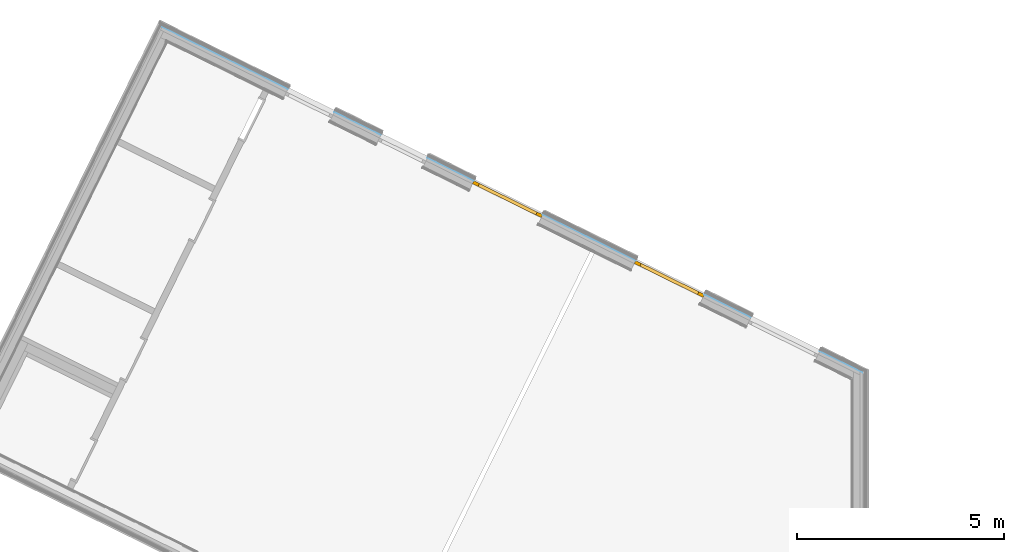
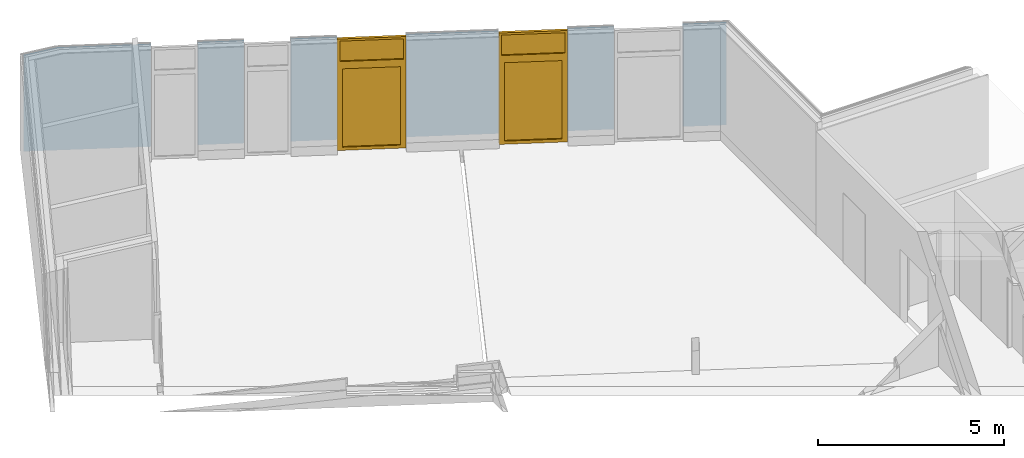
# One storey, part 20 of 23: 2 doors, 5 openings, plus 1 element that does not belong to this part.
"""IFC4 building model written with IfcOpenShell, lengths in metres."""

from ifc_helpers import new_model, entity, si_unit, converted_unit, derived_unit, frame, origin, origin_with_axes, place, context, subcontext, project, spatial, polyline, outline, extrude, clip, bounded_halfspace, closed_shell, open_shell, surface_model, source, transform, mapped, material, type_object, element, fill, save


model = new_model("IFC4")

# Units and contexts
model_context = context("Model", 3, precision=1e-05, world=origin())
body_context = subcontext(model_context, "Body", "Model", "MODEL_VIEW")
ifc_project = project(units=[si_unit("LENGTHUNIT", "METRE"), si_unit("AREAUNIT", "SQUARE_METRE"), si_unit("VOLUMEUNIT", "CUBIC_METRE"), si_unit("MASSUNIT", "GRAM", prefix="KILO"), converted_unit("PLANEANGLEUNIT", "DEGREE", entity("IfcPlaneAngleMeasure", 0.0174532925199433), si_unit("PLANEANGLEUNIT", "RADIAN"), dimensions=[0, 0, 0, 0, 0, 0, 0]), derived_unit("THERMALTRANSMITTANCEUNIT", [(si_unit("POWERUNIT", "WATT"), 1), (si_unit("THERMODYNAMICTEMPERATUREUNIT", "KELVIN"), -1), (si_unit("LENGTHUNIT", "METRE"), -2)]), derived_unit("VOLUMETRICFLOWRATEUNIT", [(si_unit("LENGTHUNIT", "METRE"), 3), (converted_unit("TIMEUNIT", "hour", entity("IfcTimeMeasure", 3600.0), si_unit("TIMEUNIT", "SECOND"), dimensions=[0, 0, 1, 0, 0, 0, 0]), -1), (si_unit("LENGTHUNIT", "METRE"), -1)])], contexts=[model_context])

# Site, building, storey
site_placement = place(None, origin())
site = spatial("IfcSite", under=ifc_project, at=site_placement, Name="Psychiatrie Neubau Wunstorf", CompositionType="ELEMENT")
building_placement = place(site_placement, origin())
building = spatial("IfcBuilding", under=site, at=building_placement, Name="Neubau H1 Sozialzentrum", CompositionType="ELEMENT")
storey_placement = place(building_placement, frame((0.0, 0.0, 0.7)))
storey = spatial("IfcBuildingStorey", under=building, at=storey_placement, Name="H1 Ebene 0", CompositionType="ELEMENT", Elevation=0.7)

# Wall, openings, doors
ifc_material_1 = material(Name="WA-LB")
wall_placement = place(storey_placement, frame((-21.8416426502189, 41.7479080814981, 0.3), z_axis=(0.0, 0.0, 1.0), x_axis=(0.896905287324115, -0.442222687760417, 0.0)))
wall = element("IfcWall", 1, at=wall_placement, inside=storey, material=ifc_material_1, context=body_context, shape_type="Clipping", body=[
    clip(extrude(outline(polyline([(-3.69601551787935, 7.49616867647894), (15.2035467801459, 7.49616867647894), (15.1857968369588, 7.53216867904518), (-3.69601551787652, 7.53216867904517), (-3.69601551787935, 7.49616867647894)])), frame((3.69601551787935, -7.49616867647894, 0.0), z_axis=(0.0, 0.0, 1.0), x_axis=(1.0, 0.0, 0.0)), (0.0, 0.0, 1.0), 3.35), bounded_halfspace(frame((0.458789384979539, 0.01800000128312, 3.24447844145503), z_axis=(0.222899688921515, 0.105378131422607, -0.969129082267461), x_axis=(-0.427404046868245, 0.904060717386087, 0.0)), True, origin_with_axes(), polyline([(0.926088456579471, 0.0), (0.909069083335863, 0.0360000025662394), (0.0, 0.0360000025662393), (0.0, 0.0), (0.926088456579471, 0.0)]))),
])
opening_1_placement = place(wall_placement, frame((17.725869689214, 0.0360000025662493, -0.5), z_axis=(0.0, -1.0, 0.0), x_axis=(0.0, 0.0, 1.0)))
element("IfcOpeningElement", 2, at=opening_1_placement, cuts=wall, Name="Fensteröffnung", ObjectType="Opening", context=body_context, shape_type="SweptSolid", body=[
    extrude(outline(polyline([(3.85, 1.85), (3.85, 0.0), (0.0, 0.0), (0.0, 1.85), (3.85, 1.85)])), origin_with_axes(), (0.0, 0.0, 1.0), 0.0360000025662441),
])
opening_2_placement = place(wall_placement, frame((7.17586968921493, 0.0360000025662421, -0.5), z_axis=(0.0, -1.0, 0.0), x_axis=(0.0, 0.0, 1.0)))
element("IfcOpeningElement", 3, at=opening_2_placement, cuts=wall, Name="Fensteröffnung", ObjectType="Opening", context=body_context, shape_type="SweptSolid", body=[
    extrude(outline(polyline([(3.85, 1.25000000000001), (3.85, 0.0), (0.0, 0.0), (0.0, 1.25000000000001), (3.85, 1.25000000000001)])), origin_with_axes(), (0.0, 0.0, 1.0), 0.0360000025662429),
])
opening_3_placement = place(wall_placement, frame((4.67586968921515, 0.0360000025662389, -0.5), z_axis=(-2.5263739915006e-14, -1.0, 0.0), x_axis=(0.0, 0.0, 1.0)))
element("IfcOpeningElement", 4, at=opening_3_placement, cuts=wall, Name="Fensteröffnung", ObjectType="Opening", context=body_context, shape_type="SweptSolid", body=[
    extrude(outline(polyline([(3.85, 1.25), (3.85, 0.0), (0.0, 0.0), (0.0, 1.25), (3.85, 1.25)])), origin_with_axes(), (0.0, 0.0, 1.0), 0.0360000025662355),
])
opening_4_placement = place(wall_placement, frame((12.7758668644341, 0.0, -0.5), z_axis=(0.0, 1.0, 0.0), x_axis=(0.0, 0.0, 1.0)))
opening_4 = element("IfcOpeningElement", 5, at=opening_4_placement, cuts=wall, Name="Türöffnung", ObjectType="Opening", context=body_context, shape_type="SweptSolid", body=[
    extrude(outline(polyline([(3.85, 1.85000000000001), (3.85, 0.0), (0.0, 0.0), (0.0, 1.85000000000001), (3.85, 1.85000000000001)])), origin_with_axes(), (0.0, 0.0, 1.0), 0.0360000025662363),
])
opening_5_placement = place(wall_placement, frame((8.42586686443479, 0.0, -0.5), z_axis=(0.0, 1.0, 0.0), x_axis=(0.0, 0.0, 1.0)))
opening_5 = element("IfcOpeningElement", 6, at=opening_5_placement, cuts=wall, Name="Türöffnung", ObjectType="Opening", context=body_context, shape_type="SweptSolid", body=[
    extrude(outline(polyline([(3.85, 1.85000000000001), (3.85, 0.0), (0.0, 0.0), (0.0, 1.85000000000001), (3.85, 1.85000000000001)])), origin_with_axes(), (0.0, 0.0, 1.0), 0.0360000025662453),
])
ifc_material_2 = material(Name="TA-1F-AG-D")
door_type_1 = type_object("IfcDoorType", Name="SMT", OperationType="SINGLE_SWING_RIGHT", ParameterTakesPrecedence=False, PredefinedType="DOOR")
shared_shape_1 = source(origin_with_axes(), body_context, "Body", "SurfaceModel", [
    surface_model("IfcShellBasedSurfaceModel", [(1.85000000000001, 0.0800013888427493, 3.85), (1.78000000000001, 0.0800013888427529, 3.85), (1.78000000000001, 0.0800013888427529, 0.2), (1.85000000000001, 0.0800013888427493, 0.2), (1.85000000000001, 1.38884275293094e-06, 0.2), (1.78000000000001, 1.38884275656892e-06, 0.2), (1.78000000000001, 1.38884275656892e-06, 3.85), (1.85000000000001, 1.38884275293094e-06, 3.85)], [closed_shell([[[0, 1, 2, 3]], [[4, 5, 6, 7]], [[3, 4, 7, 0]], [[2, 5, 4, 3]], [[1, 6, 5, 2]], [[0, 7, 6, 1]]], orient=[[False], [False], [False], [False], [False], [False]])]),
    surface_model("IfcShellBasedSurfaceModel", [(0.0700000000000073, 0.0800013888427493, 3.85), (0.0, 0.0800013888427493, 3.85), (0.0, 0.0800013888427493, 0.2), (0.0700000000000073, 0.0800013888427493, 0.2), (0.0700000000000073, 1.38884275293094e-06, 0.2), (0.0, 1.38884275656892e-06, 0.2), (0.0, 1.38884275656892e-06, 3.85), (0.0700000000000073, 1.38884275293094e-06, 3.85)], [closed_shell([[[0, 1, 2, 3]], [[4, 5, 6, 7]], [[3, 4, 7, 0]], [[2, 5, 4, 3]], [[1, 6, 5, 2]], [[0, 7, 6, 1]]], orient=[[False], [False], [False], [False], [False], [False]])]),
    surface_model("IfcShellBasedSurfaceModel", [(1.78000000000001, 0.0800013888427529, 3.85), (0.0700000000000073, 0.0800013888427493, 3.85), (0.0700000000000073, 0.0800013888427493, 3.78), (1.78000000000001, 0.0800013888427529, 3.78), (1.78000000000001, 1.38884275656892e-06, 3.78), (0.0700000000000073, 1.38884275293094e-06, 3.78), (0.0700000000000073, 1.38884275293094e-06, 3.85), (1.78000000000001, 1.38884275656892e-06, 3.85)], [closed_shell([[[0, 1, 2, 3]], [[4, 5, 6, 7]], [[3, 4, 7, 0]], [[2, 5, 4, 3]], [[1, 6, 5, 2]], [[0, 7, 6, 1]]], orient=[[False], [False], [False], [False], [False], [False]])]),
    surface_model("IfcShellBasedSurfaceModel", [(1.78000000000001, 0.0800013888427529, 3.11), (0.0700000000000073, 0.0800013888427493, 3.11), (0.0700000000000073, 0.0800013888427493, 2.95), (1.78000000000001, 0.0800013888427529, 2.95), (1.78000000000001, 1.38884275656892e-06, 2.95), (0.0700000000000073, 1.38884275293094e-06, 2.95), (0.0700000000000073, 1.38884275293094e-06, 3.11), (1.78000000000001, 1.38884275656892e-06, 3.11)], [closed_shell([[[0, 1, 2, 3]], [[4, 5, 6, 7]], [[3, 4, 7, 0]], [[2, 5, 4, 3]], [[1, 6, 5, 2]], [[0, 7, 6, 1]]], orient=[[False], [False], [False], [False], [False], [False]])]),
    surface_model("IfcShellBasedSurfaceModel", [(1.80000000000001, 0.0810013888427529, 2.97), (1.70000000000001, 0.0810013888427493, 2.97), (1.70000000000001, 0.0810013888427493, 0.2), (1.80000000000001, 0.0810013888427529, 0.2), (1.80000000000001, 0.00100138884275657, 0.2), (1.70000000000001, 0.00100138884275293, 0.2), (1.70000000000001, 0.00100138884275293, 2.97), (1.80000000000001, 0.00100138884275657, 2.97)], [closed_shell([[[0, 1, 2, 3]], [[4, 5, 6, 7]], [[3, 4, 7, 0]], [[2, 5, 4, 3]], [[1, 6, 5, 2]], [[0, 7, 6, 1]]], orient=[[False], [False], [False], [False], [False], [False]])]),
    surface_model("IfcShellBasedSurfaceModel", [(0.150000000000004, 0.0810013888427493, 2.97), (0.0500000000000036, 0.0810013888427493, 2.97), (0.0500000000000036, 0.0810013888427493, 0.2), (0.150000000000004, 0.0810013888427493, 0.2), (0.150000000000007, 0.00100138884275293, 0.2), (0.0500000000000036, 0.00100138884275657, 0.2), (0.0500000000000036, 0.00100138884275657, 2.97), (0.150000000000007, 0.00100138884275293, 2.97)], [closed_shell([[[0, 1, 2, 3]], [[4, 5, 6, 7]], [[3, 4, 7, 0]], [[2, 5, 4, 3]], [[1, 6, 5, 2]], [[0, 7, 6, 1]]], orient=[[False], [False], [False], [False], [False], [False]])]),
    surface_model("IfcShellBasedSurfaceModel", [(1.70000000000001, 0.0810013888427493, 0.3), (0.150000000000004, 0.0810013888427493, 0.3), (0.150000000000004, 0.0810013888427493, 0.2), (1.70000000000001, 0.0810013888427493, 0.2), (1.70000000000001, 0.00100138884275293, 0.2), (0.150000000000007, 0.00100138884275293, 0.2), (0.150000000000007, 0.00100138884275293, 0.3), (1.70000000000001, 0.00100138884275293, 0.3)], [closed_shell([[[0, 1, 2, 3]], [[4, 5, 6, 7]], [[3, 4, 7, 0]], [[2, 5, 4, 3]], [[1, 6, 5, 2]], [[0, 7, 6, 1]]], orient=[[False], [False], [False], [False], [False], [False]])]),
    surface_model("IfcShellBasedSurfaceModel", [(1.70000000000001, 0.0810013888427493, 2.97), (0.150000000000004, 0.0810013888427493, 2.97), (0.150000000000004, 0.0810013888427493, 2.87), (1.70000000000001, 0.0810013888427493, 2.87), (1.70000000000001, 0.00100138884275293, 2.87), (0.150000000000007, 0.00100138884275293, 2.87), (0.150000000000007, 0.00100138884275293, 2.97), (1.70000000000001, 0.00100138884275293, 2.97)], [closed_shell([[[0, 1, 2, 3]], [[4, 5, 6, 7]], [[3, 4, 7, 0]], [[2, 5, 4, 3]], [[1, 6, 5, 2]], [[0, 7, 6, 1]]], orient=[[False], [False], [False], [False], [False], [False]])]),
    surface_model("IfcShellBasedSurfaceModel", [(1.78000000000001, 0.0400013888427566, 3.11), (1.78000000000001, 0.0400013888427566, 3.78), (0.0700000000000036, 0.0400013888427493, 3.78), (0.0700000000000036, 0.0400013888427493, 3.11)], [open_shell([[[0, 1, 2, 3]]], orient=[[False]])]),
    surface_model("IfcShellBasedSurfaceModel", [(1.70000000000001, 0.0410013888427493, 0.3), (1.70000000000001, 0.0410013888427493, 2.87), (0.150000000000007, 0.0410013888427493, 2.87), (0.150000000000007, 0.0410013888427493, 0.3)], [open_shell([[[0, 1, 2, 3]]], orient=[[False]])]),
])
door_1_placement = place(opening_4_placement, frame((0.0, 0.0, -0.0800007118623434), z_axis=(1.0, 0.0, 0.0), x_axis=(0.0, 1.0, -4.44089209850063e-16)))
door_1 = element("IfcDoor", 7, at=door_1_placement, inside=storey, type_object=door_type_1, material=ifc_material_2, Name="SMT", OverallHeight=3.85, OverallWidth=1.85, context=body_context, shape_type="MappedRepresentation", body=[
    mapped(shared_shape_1, transform((0.0, 0.0, 0.0), x_axis=(1.0, 0.0, 0.0), y_axis=(0.0, 1.0, 0.0), z_axis=(0.0, 0.0, 1.0), scale=1.0)),
])
fill(opening_4, door_1)
ifc_material_3 = material(Name="TA-1F-AG-D")
door_type_2 = type_object("IfcDoorType", Name="SMT", OperationType="SINGLE_SWING_RIGHT", ParameterTakesPrecedence=False, PredefinedType="DOOR")
shared_shape_2 = source(origin_with_axes(), body_context, "Body", "SurfaceModel", [
    surface_model("IfcShellBasedSurfaceModel", [(1.85000000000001, 0.0800013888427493, 3.85), (1.78000000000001, 0.0800013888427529, 3.85), (1.78000000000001, 0.0800013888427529, 0.2), (1.85000000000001, 0.0800013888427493, 0.2), (1.85000000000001, 1.38884274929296e-06, 0.2), (1.78000000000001, 1.38884275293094e-06, 0.2), (1.78000000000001, 1.38884275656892e-06, 3.85), (1.85000000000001, 1.38884274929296e-06, 3.85)], [closed_shell([[[0, 1, 2, 3]], [[4, 5, 6, 7]], [[3, 4, 7, 0]], [[2, 5, 4, 3]], [[1, 6, 5, 2]], [[0, 7, 6, 1]]], orient=[[False], [False], [False], [False], [False], [False]])]),
    surface_model("IfcShellBasedSurfaceModel", [(0.07, 0.0800013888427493, 3.85), (0.0, 0.0800013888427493, 3.85), (0.0, 0.0800013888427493, 0.2), (0.07, 0.0800013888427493, 0.2), (0.0699999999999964, 1.38884274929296e-06, 0.2), (0.0, 1.38884275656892e-06, 0.2), (0.0, 1.38884275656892e-06, 3.85), (0.0699999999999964, 1.38884274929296e-06, 3.85)], [closed_shell([[[0, 1, 2, 3]], [[4, 5, 6, 7]], [[3, 4, 7, 0]], [[2, 5, 4, 3]], [[1, 6, 5, 2]], [[0, 7, 6, 1]]], orient=[[False], [False], [False], [False], [False], [False]])]),
    surface_model("IfcShellBasedSurfaceModel", [(1.78000000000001, 0.0800013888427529, 3.85), (0.07, 0.0800013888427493, 3.85), (0.07, 0.0800013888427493, 3.78), (1.78000000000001, 0.0800013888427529, 3.78), (1.78000000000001, 1.38884275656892e-06, 3.78), (0.0699999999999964, 1.38884274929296e-06, 3.78), (0.0699999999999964, 1.38884274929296e-06, 3.85), (1.78000000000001, 1.38884275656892e-06, 3.85)], [closed_shell([[[0, 1, 2, 3]], [[4, 5, 6, 7]], [[3, 4, 7, 0]], [[2, 5, 4, 3]], [[1, 6, 5, 2]], [[0, 7, 6, 1]]], orient=[[False], [False], [False], [False], [False], [False]])]),
    surface_model("IfcShellBasedSurfaceModel", [(1.78000000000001, 0.0800013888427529, 3.11), (0.07, 0.0800013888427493, 3.11), (0.07, 0.0800013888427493, 2.95), (1.78000000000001, 0.0800013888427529, 2.95), (1.78000000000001, 1.38884275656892e-06, 2.95), (0.0699999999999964, 1.38884274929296e-06, 2.95), (0.0699999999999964, 1.38884274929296e-06, 3.11), (1.78000000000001, 1.38884275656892e-06, 3.11)], [closed_shell([[[0, 1, 2, 3]], [[4, 5, 6, 7]], [[3, 4, 7, 0]], [[2, 5, 4, 3]], [[1, 6, 5, 2]], [[0, 7, 6, 1]]], orient=[[False], [False], [False], [False], [False], [False]])]),
    surface_model("IfcShellBasedSurfaceModel", [(1.80000000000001, 0.0810013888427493, 2.97), (1.70000000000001, 0.0810013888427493, 2.97), (1.70000000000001, 0.0810013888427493, 0.2), (1.80000000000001, 0.0810013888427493, 0.2), (1.80000000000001, 0.00100138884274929, 0.2), (1.70000000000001, 0.00100138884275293, 0.2), (1.70000000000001, 0.00100138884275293, 2.97), (1.80000000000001, 0.00100138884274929, 2.97)], [closed_shell([[[0, 1, 2, 3]], [[4, 5, 6, 7]], [[3, 4, 7, 0]], [[2, 5, 4, 3]], [[1, 6, 5, 2]], [[0, 7, 6, 1]]], orient=[[False], [False], [False], [False], [False], [False]])]),
    surface_model("IfcShellBasedSurfaceModel", [(0.149999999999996, 0.0810013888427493, 2.97), (0.0499999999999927, 0.0810013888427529, 2.97), (0.0499999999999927, 0.0810013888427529, 0.2), (0.149999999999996, 0.0810013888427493, 0.2), (0.15, 0.00100138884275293, 0.2), (0.0499999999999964, 0.00100138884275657, 0.2), (0.0499999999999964, 0.00100138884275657, 2.97), (0.15, 0.00100138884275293, 2.97)], [closed_shell([[[0, 1, 2, 3]], [[4, 5, 6, 7]], [[3, 4, 7, 0]], [[2, 5, 4, 3]], [[1, 6, 5, 2]], [[0, 7, 6, 1]]], orient=[[False], [False], [False], [False], [False], [False]])]),
    surface_model("IfcShellBasedSurfaceModel", [(1.70000000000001, 0.0810013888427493, 0.3), (0.149999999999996, 0.0810013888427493, 0.3), (0.149999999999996, 0.0810013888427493, 0.2), (1.70000000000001, 0.0810013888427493, 0.2), (1.70000000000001, 0.00100138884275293, 0.2), (0.15, 0.00100138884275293, 0.2), (0.15, 0.00100138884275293, 0.3), (1.70000000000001, 0.00100138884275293, 0.3)], [closed_shell([[[0, 1, 2, 3]], [[4, 5, 6, 7]], [[3, 4, 7, 0]], [[2, 5, 4, 3]], [[1, 6, 5, 2]], [[0, 7, 6, 1]]], orient=[[False], [False], [False], [False], [False], [False]])]),
    surface_model("IfcShellBasedSurfaceModel", [(1.70000000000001, 0.0810013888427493, 2.97), (0.149999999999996, 0.0810013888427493, 2.97), (0.149999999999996, 0.0810013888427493, 2.87), (1.70000000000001, 0.0810013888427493, 2.87), (1.70000000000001, 0.00100138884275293, 2.87), (0.15, 0.00100138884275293, 2.87), (0.15, 0.00100138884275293, 2.97), (1.70000000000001, 0.00100138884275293, 2.97)], [closed_shell([[[0, 1, 2, 3]], [[4, 5, 6, 7]], [[3, 4, 7, 0]], [[2, 5, 4, 3]], [[1, 6, 5, 2]], [[0, 7, 6, 1]]], orient=[[False], [False], [False], [False], [False], [False]])]),
    surface_model("IfcShellBasedSurfaceModel", [(1.78000000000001, 0.0400013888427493, 3.11), (1.78000000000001, 0.0400013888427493, 3.78), (0.0699999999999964, 0.0400013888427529, 3.78), (0.0699999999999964, 0.0400013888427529, 3.11)], [open_shell([[[0, 1, 2, 3]]], orient=[[False]])]),
    surface_model("IfcShellBasedSurfaceModel", [(1.70000000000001, 0.0410013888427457, 0.3), (1.70000000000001, 0.0410013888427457, 2.87), (0.15, 0.0410013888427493, 2.87), (0.15, 0.0410013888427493, 0.3)], [open_shell([[[0, 1, 2, 3]]], orient=[[False]])]),
])
door_2_placement = place(opening_5_placement, frame((0.0, 0.0, -0.0800007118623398), z_axis=(1.0, 0.0, 0.0), x_axis=(0.0, 1.0, -8.32667268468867e-16)))
door_2 = element("IfcDoor", 8, at=door_2_placement, inside=storey, type_object=door_type_2, material=ifc_material_3, Name="SMT", OverallHeight=3.85, OverallWidth=1.85, context=body_context, shape_type="MappedRepresentation", body=[
    mapped(shared_shape_2, transform((0.0, 0.0, 0.0), x_axis=(1.0, 0.0, 0.0), y_axis=(0.0, 1.0, 0.0), z_axis=(0.0, 0.0, 1.0), scale=1.0)),
])
fill(opening_5, door_2)

save(model, "model.ifc")
